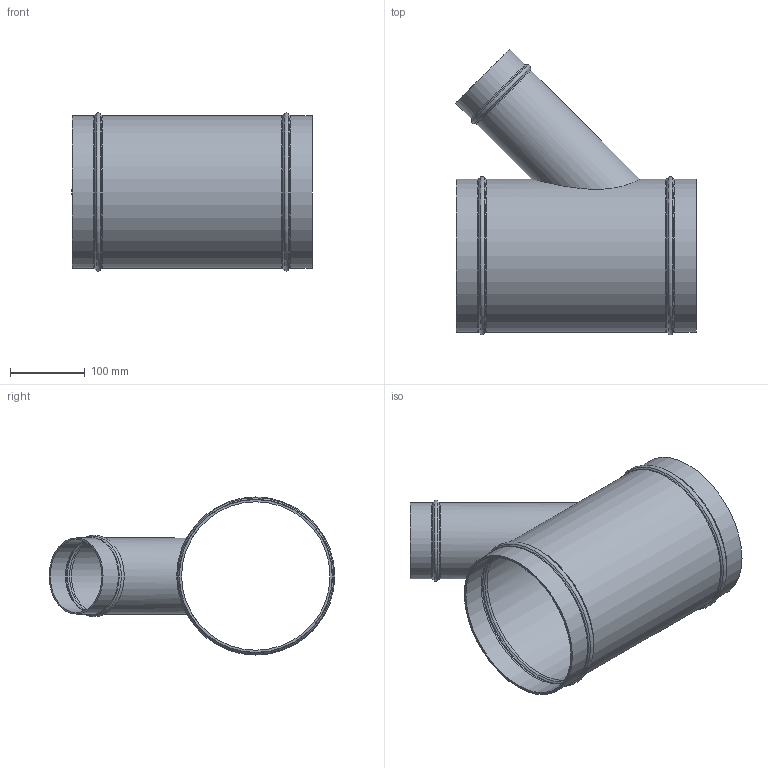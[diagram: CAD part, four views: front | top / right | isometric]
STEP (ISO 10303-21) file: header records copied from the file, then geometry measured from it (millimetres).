
FILE_DESCRIPTION(/* description */ (''),/* implementation_level */ '2;1');
FILE_NAME(/* name */ '30212110801 2016 A812 00.stp',/* time_stamp */ '2024-03-13T09:37:25+08:00',/* author */ (''),/* organization */ (''),/* preprocessor_version */ 'ST-DEVELOPER v11',/* originating_system */ 'SIEMENS PLM Software NX 7.5',/* authorisation */ '');
FILE_SCHEMA (('CONFIG_CONTROL_DESIGN'));
Length unit declared in the file: millimetre
Products named in the file (1): AdmiE02318f4
Bounding box: 320.63 x 381.12 x 210.98 mm (x, y, z)
Volume: 712902.6 mm3; surface area: 523265.4 mm2
Topology: 1 solids, 1 shells, 43 faces, 84 edges, 44 vertices
Faces by surface type: torus 18, cone 12, cylinder 10, plane 3
Full cylindrical faces by diameter (mm): 97.6 x2, 101.6 x2, 198 x3, 204 x3
Entity records: 1064 total; most frequent: CARTESIAN_POINT 234, DIRECTION 172, FACE_BOUND 88, EDGE_LOOP 88, ORIENTED_EDGE 88, AXIS2_PLACEMENT_3D 86, VERTEX_POINT 44, EDGE_CURVE 44
